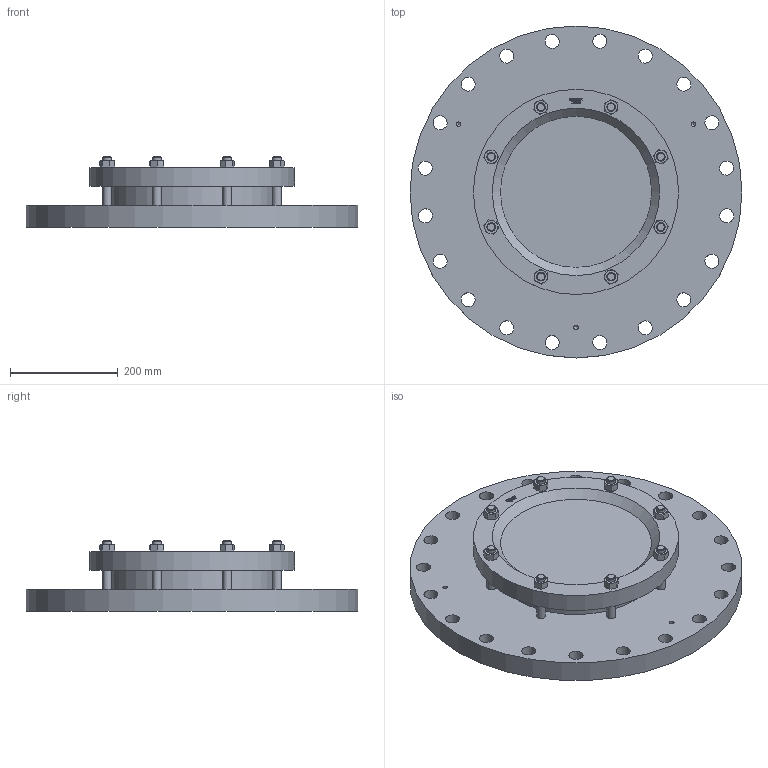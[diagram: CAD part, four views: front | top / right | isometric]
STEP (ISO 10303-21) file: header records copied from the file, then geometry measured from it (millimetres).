
FILE_DESCRIPTION(/* description */ (''),/* implementation_level */ '2;1');
FILE_NAME(/* name */ 'W:\Konstruktion_ACI\325\_STEP\325-450-10.stp',/* time_stamp */ '2022-03-02T17:12:08+01:00',/* author */ ('koslowksi'),/* organization */ (''),/* preprocessor_version */ 'ST-DEVELOPER v16.1',/* originating_system */ 'Autodesk Inventor 2016',/* authorisation */ '');
FILE_SCHEMA (('AUTOMOTIVE_DESIGN { 1 0 10303 214 3 1 1 }'));
Length unit declared in the file: millimetre
Products named in the file (1): 325-450-10
Bounding box: 615 x 615 x 130 mm (x, y, z)
Volume: 17016821.4 mm3; surface area: 902620.9 mm2
Topology: 1 solids, 1 shells, 457 faces, 1172 edges, 755 vertices
Faces by surface type: plane 199, cone 108, bspline 108, cylinder 42
Full cylindrical faces by diameter (mm): 8.376 x3, 16 x16, 26 x20, 304 x1, 380 x1, 615 x1
Entity records: 14150 total; most frequent: CARTESIAN_POINT 4057, ORIENTED_EDGE 2174, DIRECTION 1569, EDGE_CURVE 1087, VERTEX_POINT 724, EDGE_LOOP 605, AXIS2_PLACEMENT_3D 540, LINE 489
